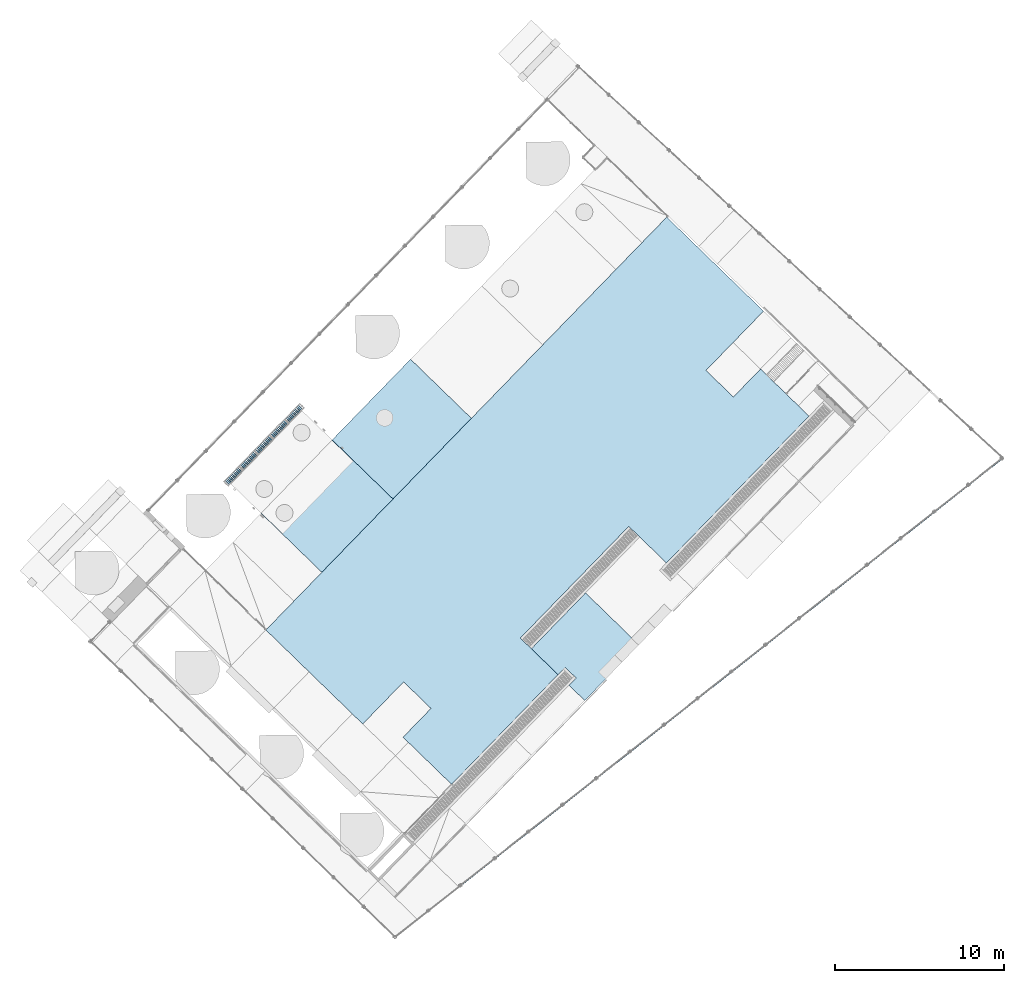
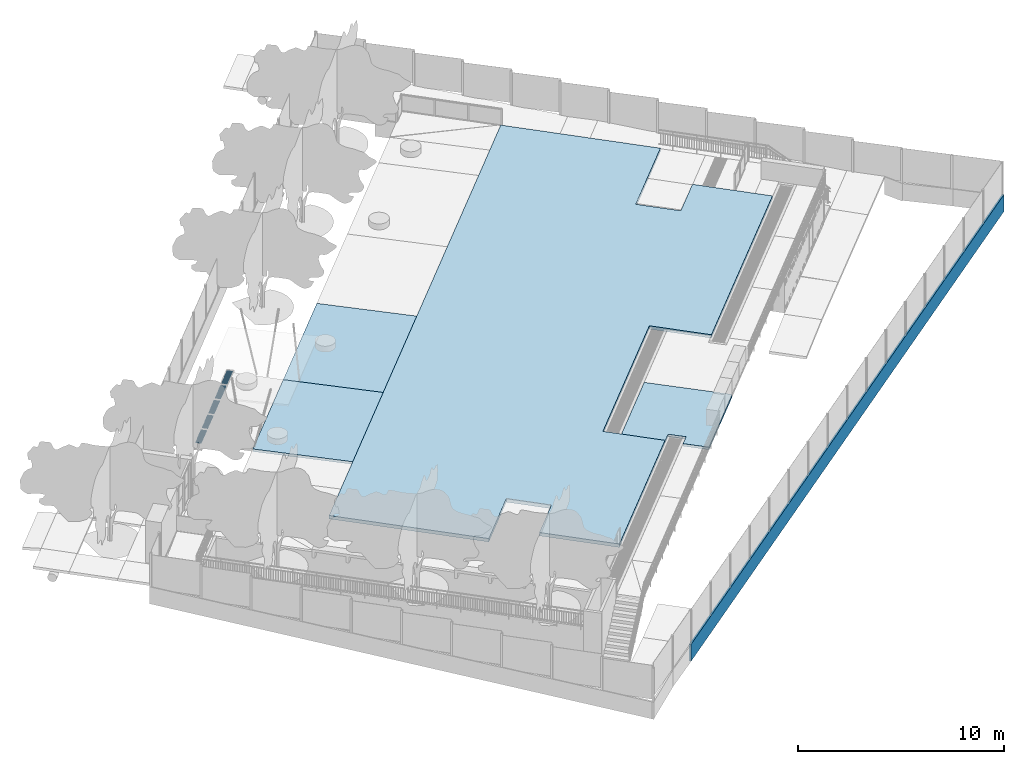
# One storey, part 14 of 37: 6 slabs.
"""IFC2X3 building model written with IfcOpenShell, lengths in centimetres."""

from ifc_helpers import new_model, entity, si_unit, converted_unit, derived_unit, direction, frame, frame_2d, origin, place, context, subcontext, project, spatial, polyline, rectangle, outline, extrude, material, layer, layer_set, layer_usage, element, save


model = new_model("IFC2X3")

# Units and contexts
model_context = context("Model", 3, precision=0.001, world=origin(), true_north=direction((0.717475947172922, 0.696583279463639)))
body_context = subcontext(model_context, "Body", "Model", "MODEL_VIEW")
ifc_project = project(units=[si_unit("LENGTHUNIT", "METRE", prefix="CENTI"), si_unit("AREAUNIT", "SQUARE_METRE"), si_unit("VOLUMEUNIT", "CUBIC_METRE"), converted_unit("PLANEANGLEUNIT", "DEGREE", entity("IfcRatioMeasure", 0.0174532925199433), si_unit("PLANEANGLEUNIT", "RADIAN"), dimensions=[0, 0, 0, 0, 0, 0, 0]), si_unit("MASSUNIT", "GRAM", prefix="KILO"), derived_unit("MASSDENSITYUNIT", [(si_unit("MASSUNIT", "GRAM", prefix="KILO"), 1), (si_unit("LENGTHUNIT", "METRE"), -3)]), si_unit("TIMEUNIT", "SECOND"), si_unit("FREQUENCYUNIT", "HERTZ"), si_unit("THERMODYNAMICTEMPERATUREUNIT", "DEGREE_CELSIUS"), derived_unit("THERMALTRANSMITTANCEUNIT", [(si_unit("MASSUNIT", "GRAM", prefix="KILO"), 1), (si_unit("THERMODYNAMICTEMPERATUREUNIT", "KELVIN"), -1), (si_unit("TIMEUNIT", "SECOND"), -3)]), derived_unit("VOLUMETRICFLOWRATEUNIT", [(si_unit("LENGTHUNIT", "METRE"), 3), (si_unit("TIMEUNIT", "SECOND"), -1)]), si_unit("ELECTRICCURRENTUNIT", "AMPERE"), si_unit("ELECTRICVOLTAGEUNIT", "VOLT"), si_unit("POWERUNIT", "WATT"), si_unit("FORCEUNIT", "NEWTON", prefix="KILO"), si_unit("ILLUMINANCEUNIT", "LUX"), si_unit("LUMINOUSFLUXUNIT", "LUMEN"), si_unit("LUMINOUSINTENSITYUNIT", "CANDELA"), derived_unit("USERDEFINED", [(si_unit("MASSUNIT", "GRAM", prefix="KILO"), -1), (si_unit("LENGTHUNIT", "METRE"), -2), (si_unit("TIMEUNIT", "SECOND"), 3), (si_unit("LUMINOUSFLUXUNIT", "LUMEN"), 1)]), derived_unit("LINEARVELOCITYUNIT", [(si_unit("LENGTHUNIT", "METRE"), 1), (si_unit("TIMEUNIT", "SECOND"), -1)]), si_unit("PRESSUREUNIT", "PASCAL"), derived_unit("USERDEFINED", [(si_unit("LENGTHUNIT", "METRE"), -2), (si_unit("MASSUNIT", "GRAM", prefix="KILO"), 1), (si_unit("TIMEUNIT", "SECOND"), -2)])], contexts=[model_context])

# Site, building, storey
site_placement = place(None, frame((0.0, 0.0, 0.0), z_axis=(0.0, 0.0, 1.0), x_axis=(0.696583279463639, 0.717475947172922, 0.0)))
site = spatial("IfcSite", under=ifc_project, at=site_placement, Name="Surface", CompositionType="ELEMENT")
building_placement = place(site_placement, origin())
building = spatial("IfcBuilding", under=site, at=building_placement, CompositionType="ELEMENT")
storey_placement = place(building_placement, origin())
storey = spatial("IfcBuildingStorey", under=building, at=storey_placement, Name="Nivel 0.00", CompositionType="ELEMENT", Elevation=0.0)

# Slabs
ifc_material_1 = material(Name="<Unnamed>")
ifc_layer_1 = layer(ifc_material_1, 15.0)
ifc_layer_set_1 = layer_set([ifc_layer_1], Name="Pad:HORMIGON_EXTERIOR_150mm")
ifc_layer_usage_1 = layer_usage(ifc_layer_set_1, "AXIS3", "POSITIVE", 0.0)
slab_1_placement = place(storey_placement, frame((-596.972531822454, -1565.307950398, 132.999369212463)))
element("IfcSlab", 1, at=slab_1_placement, inside=storey, material=ifc_layer_usage_1, Name="Pad:HORMIGON_EXTERIOR_150mm", ObjectType="Pad:HORMIGON_EXTERIOR_150mm", PredefinedType="FLOOR", context=body_context, shape_type="SweptSolid", body=[
    extrude(outline(polyline([(-229.930055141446, -439.864616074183), (229.930055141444, -439.864616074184), (229.930055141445, 0.0), (-229.930055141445, 0.0), (-229.930055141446, -220.014068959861), (-169.93095274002, -220.014068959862), (-169.930952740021, -310.017491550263), (-229.930055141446, -310.017491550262), (-229.930055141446, -439.864616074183)])), frame((229.930055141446, 439.846428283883, 15.0006202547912), z_axis=(0.0, 0.00909370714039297, 0.999958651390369), x_axis=(1.0, 0.0, 0.0)), (0.0, 0.00909370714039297, -0.999958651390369), 15.0006202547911),
])
ifc_layer_usage_2 = layer_usage(ifc_layer_set_1, "AXIS3", "POSITIVE", 0.0)
slab_2_placement = place(storey_placement, frame((-531.523887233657, 77.5654875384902, 124.997002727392)))
element("IfcSlab", 2, at=slab_2_placement, inside=storey, material=ifc_layer_usage_2, Name="Pad:HORMIGON_EXTERIOR_150mm", ObjectType="Pad:HORMIGON_EXTERIOR_150mm", PredefinedType="FLOOR", context=body_context, shape_type="SweptSolid", body=[
    extrude(rectangle(XDim=501.183519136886, YDim=664.982435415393, at=frame_2d((0.0, -250.591759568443), x_axis=(0.0, -1.0))), frame((332.491217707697, 0.0, 25.0029867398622), z_axis=(0.0, -0.0199527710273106, -0.999800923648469), x_axis=(1.0, 0.0, 0.0)), (0.0, -0.0199527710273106, 0.999800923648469), 15.0029867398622),
])
ifc_layer_usage_3 = layer_usage(ifc_layer_set_1, "AXIS3", "POSITIVE", 0.0)
slab_3_placement = place(storey_placement, frame((-1135.51504225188, 77.6410189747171, 124.997001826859)))
element("IfcSlab", 3, at=slab_3_placement, inside=storey, material=ifc_layer_usage_3, Name="Pad:HORMIGON_EXTERIOR_150mm", ObjectType="Pad:HORMIGON_EXTERIOR_150mm", PredefinedType="FLOOR", context=body_context, shape_type="SweptSolid", body=[
    extrude(rectangle(XDim=501.108002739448, YDim=603.99115501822, at=frame_2d((0.0, -250.554001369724), x_axis=(0.0, 1.0))), frame((301.99557750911, 0.0, 25.0029876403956), z_axis=(0.0, -0.0199557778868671, -0.99980086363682), x_axis=(1.0, 0.0, 0.0)), (0.0, -0.0199557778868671, 0.99980086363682), 15.0029876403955),
])
ifc_layer_2 = layer(ifc_material_1, 20.0)
ifc_layer_set_2 = layer_set([ifc_layer_2], Name="Pad:HORMIGON_SOBRESUELO_200mm")
ifc_layer_usage_4 = layer_usage(ifc_layer_set_2, "AXIS3", "POSITIVE", 0.0)
slab_4_placement = place(storey_placement, origin())
element("IfcSlab", 4, at=slab_4_placement, inside=storey, material=ifc_layer_usage_4, Name="Pad:HORMIGON_SOBRESUELO_200mm", ObjectType="Pad:HORMIGON_SOBRESUELO_200mm", PredefinedType="FLOOR", context=body_context, shape_type="SweptSolid", body=[
    extrude(outline(polyline([(-950.102242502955, -1607.60503923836), (-152.070261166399, -1607.60503923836), (-152.070261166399, -1260.58187886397), (72.9297388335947, -1260.58187886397), (72.9297388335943, -1497.62811196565), (472.929738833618, -1497.62811196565), (472.92973883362, -594.030537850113), (162.520654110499, -594.030537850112), (162.520654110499, 325.689583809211), (472.929738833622, 325.689583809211), (472.929738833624, 1535.49215786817), (72.9329047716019, 1535.49215786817), (72.9329047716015, 1305.1692577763), (-152.070271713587, 1305.1692577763), (-152.070271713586, 1793.49456846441), (-950.102242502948, 1793.49456846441), (-950.102242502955, -1607.60503923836)])), frame((-2.94199397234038, -872.536754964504, 135.0), z_axis=(0.0, 0.0, 1.0), x_axis=(0.0, -1.0, 0.0)), (0.0, 0.0, 1.0), 20.0),
])
ifc_material_2 = material(Name="Default Roof")
slab_5_placement = place(storey_placement, origin())
element("IfcSlab", 5, at=slab_5_placement, inside=storey, material=ifc_material_2, Name="REGUERA_METÁLICA5:REGUERA_METÁLICA-03", ObjectType="REGUERA_METÁLICA5:REGUERA_METÁLICA-03", PredefinedType="FLOOR", context=body_context, shape_type="SweptSolid", body=[
    extrude(rectangle(XDim=30.0000000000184, YDim=4.7625, at=frame_2d((-5.41788836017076e-14, 0.0), x_axis=(1.0, 0.0))), frame((-1144.20815403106, 848.098169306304, 135.0), z_axis=(0.0, 0.0, 1.0), x_axis=(0.0, -1.0, 0.0)), (0.0, 0.0, 1.0), 5.0),
    extrude(rectangle(XDim=30.0000000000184, YDim=4.7625, at=frame_2d((5.41788836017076e-14, 0.0), x_axis=(1.0, 0.0))), frame((-1039.43315403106, 848.098169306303, 135.0), z_axis=(0.0, 0.0, 1.0), x_axis=(0.0, -1.0, 0.0)), (0.0, 0.0, 1.0), 5.0),
    extrude(rectangle(XDim=30.0000000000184, YDim=4.7625, at=frame_2d((5.41788836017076e-14, 0.0), x_axis=(1.0, 0.0))), frame((-1048.95815403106, 848.098169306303, 135.0), z_axis=(0.0, 0.0, 1.0), x_axis=(0.0, -1.0, 0.0)), (0.0, 0.0, 1.0), 5.0),
    extrude(rectangle(XDim=30.0000000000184, YDim=4.7625, at=frame_2d((5.41788836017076e-14, 0.0), x_axis=(1.0, 0.0))), frame((-1058.48315403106, 848.098169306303, 135.0), z_axis=(0.0, 0.0, 1.0), x_axis=(0.0, -1.0, 0.0)), (0.0, 0.0, 1.0), 5.0),
    extrude(rectangle(XDim=30.0000000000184, YDim=4.7625, at=frame_2d((5.41788836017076e-14, 0.0), x_axis=(1.0, 0.0))), frame((-1068.00815403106, 848.098169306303, 135.0), z_axis=(0.0, 0.0, 1.0), x_axis=(0.0, -1.0, 0.0)), (0.0, 0.0, 1.0), 5.0),
    extrude(rectangle(XDim=30.0000000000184, YDim=4.7625, at=frame_2d((5.41788836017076e-14, 0.0), x_axis=(1.0, 0.0))), frame((-1077.53315403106, 848.098169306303, 135.0), z_axis=(0.0, 0.0, 1.0), x_axis=(0.0, -1.0, 0.0)), (0.0, 0.0, 1.0), 5.0),
    extrude(rectangle(XDim=30.0000000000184, YDim=4.7625, at=frame_2d((5.41788836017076e-14, 0.0), x_axis=(1.0, 0.0))), frame((-1087.05815403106, 848.098169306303, 135.0), z_axis=(0.0, 0.0, 1.0), x_axis=(0.0, -1.0, 0.0)), (0.0, 0.0, 1.0), 5.0),
    extrude(rectangle(XDim=30.0000000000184, YDim=4.7625, at=frame_2d((-5.41788836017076e-14, 0.0), x_axis=(1.0, 0.0))), frame((-1096.58315403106, 848.098169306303, 135.0), z_axis=(0.0, 0.0, 1.0), x_axis=(0.0, -1.0, 0.0)), (0.0, 0.0, 1.0), 5.0),
    extrude(rectangle(XDim=30.0000000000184, YDim=4.7625, at=frame_2d((-5.41788836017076e-14, 0.0), x_axis=(1.0, 0.0))), frame((-1106.10815403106, 848.098169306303, 135.0), z_axis=(0.0, 0.0, 1.0), x_axis=(0.0, -1.0, 0.0)), (0.0, 0.0, 1.0), 5.0),
    extrude(rectangle(XDim=30.0000000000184, YDim=4.7625, at=frame_2d((5.41788836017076e-14, 0.0), x_axis=(1.0, 0.0))), frame((-1115.63315403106, 848.098169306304, 135.0), z_axis=(0.0, 0.0, 1.0), x_axis=(0.0, -1.0, 0.0)), (0.0, 0.0, 1.0), 5.0),
    extrude(rectangle(XDim=30.0000000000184, YDim=4.7625, at=frame_2d((5.41788836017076e-14, 0.0), x_axis=(1.0, 0.0))), frame((-1125.15815403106, 848.098169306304, 135.0), z_axis=(0.0, 0.0, 1.0), x_axis=(0.0, -1.0, 0.0)), (0.0, 0.0, 1.0), 5.0),
    extrude(rectangle(XDim=30.0000000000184, YDim=4.7625, at=frame_2d((-5.41788836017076e-14, 0.0), x_axis=(1.0, 0.0))), frame((-1134.68315403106, 848.098169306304, 135.0), z_axis=(0.0, 0.0, 1.0), x_axis=(0.0, -1.0, 0.0)), (0.0, 0.0, 1.0), 5.0),
    extrude(rectangle(XDim=4.7625, YDim=30.0000000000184, at=frame_2d((0.0, 5.41788836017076e-14), x_axis=(1.0, 0.0))), frame((-1014.60577481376, 848.098169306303, 135.0), z_axis=(0.0, 0.0, 1.0), x_axis=(-1.0, 0.0, 0.0)), (0.0, 0.0, 1.0), 5.0),
    extrude(rectangle(XDim=4.7625, YDim=30.0000000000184, at=frame_2d((0.0, 5.41788836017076e-14), x_axis=(1.0, 0.0))), frame((-1005.08077481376, 848.098169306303, 135.0), z_axis=(0.0, 0.0, 1.0), x_axis=(-1.0, 0.0, 0.0)), (0.0, 0.0, 1.0), 5.0),
    extrude(rectangle(XDim=4.7625, YDim=30.0000000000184, at=frame_2d((0.0, 5.41788836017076e-14), x_axis=(1.0, 0.0))), frame((-995.555774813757, 848.098169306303, 135.0), z_axis=(0.0, 0.0, 1.0), x_axis=(-1.0, 0.0, 0.0)), (0.0, 0.0, 1.0), 5.0),
    extrude(rectangle(XDim=4.7625, YDim=30.0000000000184, at=frame_2d((0.0, 5.41788836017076e-14), x_axis=(1.0, 0.0))), frame((-986.030774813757, 848.098169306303, 135.0), z_axis=(0.0, 0.0, 1.0), x_axis=(-1.0, 0.0, 0.0)), (0.0, 0.0, 1.0), 5.0),
    extrude(rectangle(XDim=4.7625, YDim=30.0000000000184, at=frame_2d((0.0, 5.41788836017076e-14), x_axis=(1.0, 0.0))), frame((-976.505774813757, 848.098169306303, 135.0), z_axis=(0.0, 0.0, 1.0), x_axis=(-1.0, 0.0, 0.0)), (0.0, 0.0, 1.0), 5.0),
    extrude(rectangle(XDim=4.7625, YDim=30.0000000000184, at=frame_2d((0.0, 5.41788836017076e-14), x_axis=(1.0, 0.0))), frame((-966.980774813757, 848.098169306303, 135.0), z_axis=(0.0, 0.0, 1.0), x_axis=(-1.0, 0.0, 0.0)), (0.0, 0.0, 1.0), 5.0),
    extrude(rectangle(XDim=4.7625, YDim=30.0000000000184, at=frame_2d((0.0, 5.41788836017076e-14), x_axis=(1.0, 0.0))), frame((-957.455774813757, 848.098169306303, 135.0), z_axis=(0.0, 0.0, 1.0), x_axis=(-1.0, 0.0, 0.0)), (0.0, 0.0, 1.0), 5.0),
    extrude(rectangle(XDim=4.7625, YDim=30.0000000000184, at=frame_2d((0.0, 5.41788836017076e-14), x_axis=(1.0, 0.0))), frame((-947.930774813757, 848.098169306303, 135.0), z_axis=(0.0, 0.0, 1.0), x_axis=(-1.0, 0.0, 0.0)), (0.0, 0.0, 1.0), 5.0),
    extrude(rectangle(XDim=4.7625, YDim=30.0000000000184, at=frame_2d((0.0, -5.41788836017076e-14), x_axis=(1.0, 0.0))), frame((-938.405774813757, 848.098169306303, 135.0), z_axis=(0.0, 0.0, 1.0), x_axis=(-1.0, 0.0, 0.0)), (0.0, 0.0, 1.0), 5.0),
    extrude(rectangle(XDim=4.7625, YDim=30.0000000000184, at=frame_2d((0.0, -5.41788836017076e-14), x_axis=(1.0, 0.0))), frame((-928.880774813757, 848.098169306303, 135.0), z_axis=(0.0, 0.0, 1.0), x_axis=(-1.0, 0.0, 0.0)), (0.0, 0.0, 1.0), 5.0),
    extrude(rectangle(XDim=4.7625, YDim=30.0000000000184, at=frame_2d((0.0, -5.41788836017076e-14), x_axis=(1.0, 0.0))), frame((-919.355774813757, 848.098169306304, 135.0), z_axis=(0.0, 0.0, 1.0), x_axis=(-1.0, 0.0, 0.0)), (0.0, 0.0, 1.0), 5.0),
    extrude(rectangle(XDim=4.7625, YDim=30.0000000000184, at=frame_2d((0.0, -5.41788836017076e-14), x_axis=(1.0, 0.0))), frame((-909.830774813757, 848.098169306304, 135.0), z_axis=(0.0, 0.0, 1.0), x_axis=(-1.0, 0.0, 0.0)), (0.0, 0.0, 1.0), 5.0),
    extrude(rectangle(XDim=30.0000000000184, YDim=4.7625, at=frame_2d((5.41788836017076e-14, 0.0), x_axis=(1.0, 0.0))), frame((-781.433154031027, 848.098169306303, 135.0), z_axis=(0.0, 0.0, 1.0), x_axis=(0.0, -1.0, 0.0)), (0.0, 0.0, 1.0), 5.0),
    extrude(rectangle(XDim=30.0000000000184, YDim=4.7625, at=frame_2d((5.41788836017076e-14, 0.0), x_axis=(1.0, 0.0))), frame((-790.958154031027, 848.098169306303, 135.0), z_axis=(0.0, 0.0, 1.0), x_axis=(0.0, -1.0, 0.0)), (0.0, 0.0, 1.0), 5.0),
    extrude(rectangle(XDim=30.0000000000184, YDim=4.7625, at=frame_2d((5.41788836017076e-14, 0.0), x_axis=(1.0, 0.0))), frame((-800.483154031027, 848.098169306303, 135.0), z_axis=(0.0, 0.0, 1.0), x_axis=(0.0, -1.0, 0.0)), (0.0, 0.0, 1.0), 5.0),
    extrude(rectangle(XDim=30.0000000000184, YDim=4.7625, at=frame_2d((5.41788836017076e-14, 0.0), x_axis=(1.0, 0.0))), frame((-810.008154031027, 848.098169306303, 135.0), z_axis=(0.0, 0.0, 1.0), x_axis=(0.0, -1.0, 0.0)), (0.0, 0.0, 1.0), 5.0),
    extrude(rectangle(XDim=30.0000000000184, YDim=4.7625, at=frame_2d((5.41788836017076e-14, 0.0), x_axis=(1.0, 0.0))), frame((-819.533154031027, 848.098169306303, 135.0), z_axis=(0.0, 0.0, 1.0), x_axis=(0.0, -1.0, 0.0)), (0.0, 0.0, 1.0), 5.0),
    extrude(rectangle(XDim=30.0000000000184, YDim=4.7625, at=frame_2d((5.41788836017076e-14, 0.0), x_axis=(1.0, 0.0))), frame((-829.058154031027, 848.098169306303, 135.0), z_axis=(0.0, 0.0, 1.0), x_axis=(0.0, -1.0, 0.0)), (0.0, 0.0, 1.0), 5.0),
    extrude(rectangle(XDim=30.0000000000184, YDim=4.7625, at=frame_2d((-5.41788836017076e-14, 0.0), x_axis=(1.0, 0.0))), frame((-838.583154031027, 848.098169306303, 135.0), z_axis=(0.0, 0.0, 1.0), x_axis=(0.0, -1.0, 0.0)), (0.0, 0.0, 1.0), 5.0),
    extrude(rectangle(XDim=30.0000000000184, YDim=4.7625, at=frame_2d((-5.41788836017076e-14, 0.0), x_axis=(1.0, 0.0))), frame((-848.108154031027, 848.098169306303, 135.0), z_axis=(0.0, 0.0, 1.0), x_axis=(0.0, -1.0, 0.0)), (0.0, 0.0, 1.0), 5.0),
    extrude(rectangle(XDim=30.0000000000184, YDim=4.7625, at=frame_2d((5.41788836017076e-14, 0.0), x_axis=(1.0, 0.0))), frame((-857.633154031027, 848.098169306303, 135.0), z_axis=(0.0, 0.0, 1.0), x_axis=(0.0, -1.0, 0.0)), (0.0, 0.0, 1.0), 5.0),
    extrude(rectangle(XDim=30.0000000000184, YDim=4.7625, at=frame_2d((5.41788836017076e-14, 0.0), x_axis=(1.0, 0.0))), frame((-867.158154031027, 848.098169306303, 135.0), z_axis=(0.0, 0.0, 1.0), x_axis=(0.0, -1.0, 0.0)), (0.0, 0.0, 1.0), 5.0),
    extrude(rectangle(XDim=30.0000000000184, YDim=4.7625, at=frame_2d((-5.41788836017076e-14, 0.0), x_axis=(1.0, 0.0))), frame((-876.683154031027, 848.098169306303, 135.0), z_axis=(0.0, 0.0, 1.0), x_axis=(0.0, -1.0, 0.0)), (0.0, 0.0, 1.0), 5.0),
    extrude(rectangle(XDim=30.0000000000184, YDim=4.7625, at=frame_2d((-5.41788836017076e-14, 0.0), x_axis=(1.0, 0.0))), frame((-886.208154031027, 848.098169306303, 135.0), z_axis=(0.0, 0.0, 1.0), x_axis=(0.0, -1.0, 0.0)), (0.0, 0.0, 1.0), 5.0),
    extrude(rectangle(XDim=4.7625, YDim=30.0000000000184, at=frame_2d((0.0, 5.41788836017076e-14), x_axis=(1.0, 0.0))), frame((-756.605774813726, 848.098169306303, 135.0), z_axis=(0.0, 0.0, 1.0), x_axis=(-1.0, 0.0, 0.0)), (0.0, 0.0, 1.0), 5.0),
    extrude(rectangle(XDim=4.7625, YDim=30.0000000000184, at=frame_2d((0.0, 5.41788836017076e-14), x_axis=(1.0, 0.0))), frame((-747.080774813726, 848.098169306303, 135.0), z_axis=(0.0, 0.0, 1.0), x_axis=(-1.0, 0.0, 0.0)), (0.0, 0.0, 1.0), 5.0),
    extrude(rectangle(XDim=4.7625, YDim=30.0000000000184, at=frame_2d((0.0, 5.41788836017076e-14), x_axis=(1.0, 0.0))), frame((-737.555774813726, 848.098169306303, 135.0), z_axis=(0.0, 0.0, 1.0), x_axis=(-1.0, 0.0, 0.0)), (0.0, 0.0, 1.0), 5.0),
    extrude(rectangle(XDim=4.7625, YDim=30.0000000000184, at=frame_2d((0.0, 5.41788836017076e-14), x_axis=(1.0, 0.0))), frame((-728.030774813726, 848.098169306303, 135.0), z_axis=(0.0, 0.0, 1.0), x_axis=(-1.0, 0.0, 0.0)), (0.0, 0.0, 1.0), 5.0),
    extrude(rectangle(XDim=4.7625, YDim=30.0000000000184, at=frame_2d((0.0, 5.41788836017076e-14), x_axis=(1.0, 0.0))), frame((-718.505774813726, 848.098169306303, 135.0), z_axis=(0.0, 0.0, 1.0), x_axis=(-1.0, 0.0, 0.0)), (0.0, 0.0, 1.0), 5.0),
    extrude(rectangle(XDim=4.7625, YDim=30.0000000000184, at=frame_2d((0.0, 5.41788836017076e-14), x_axis=(1.0, 0.0))), frame((-708.980774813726, 848.098169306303, 135.0), z_axis=(0.0, 0.0, 1.0), x_axis=(-1.0, 0.0, 0.0)), (0.0, 0.0, 1.0), 5.0),
    extrude(rectangle(XDim=4.7625, YDim=30.0000000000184, at=frame_2d((0.0, 5.41788836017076e-14), x_axis=(1.0, 0.0))), frame((-699.455774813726, 848.098169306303, 135.0), z_axis=(0.0, 0.0, 1.0), x_axis=(-1.0, 0.0, 0.0)), (0.0, 0.0, 1.0), 5.0),
    extrude(rectangle(XDim=4.7625, YDim=30.0000000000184, at=frame_2d((0.0, 5.41788836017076e-14), x_axis=(1.0, 0.0))), frame((-689.930774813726, 848.098169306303, 135.0), z_axis=(0.0, 0.0, 1.0), x_axis=(-1.0, 0.0, 0.0)), (0.0, 0.0, 1.0), 5.0),
    extrude(rectangle(XDim=4.7625, YDim=30.0000000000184, at=frame_2d((0.0, -5.41788836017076e-14), x_axis=(1.0, 0.0))), frame((-680.405774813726, 848.098169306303, 135.0), z_axis=(0.0, 0.0, 1.0), x_axis=(-1.0, 0.0, 0.0)), (0.0, 0.0, 1.0), 5.0),
    extrude(rectangle(XDim=4.7625, YDim=30.0000000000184, at=frame_2d((0.0, -5.41788836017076e-14), x_axis=(1.0, 0.0))), frame((-670.880774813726, 848.098169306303, 135.0), z_axis=(0.0, 0.0, 1.0), x_axis=(-1.0, 0.0, 0.0)), (0.0, 0.0, 1.0), 5.0),
    extrude(rectangle(XDim=4.7625, YDim=30.0000000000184, at=frame_2d((0.0, -5.41788836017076e-14), x_axis=(1.0, 0.0))), frame((-661.355774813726, 848.098169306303, 135.0), z_axis=(0.0, 0.0, 1.0), x_axis=(-1.0, 0.0, 0.0)), (0.0, 0.0, 1.0), 5.0),
    extrude(rectangle(XDim=4.7625, YDim=30.0000000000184, at=frame_2d((0.0, -5.41788836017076e-14), x_axis=(1.0, 0.0))), frame((-651.830774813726, 848.098169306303, 135.0), z_axis=(0.0, 0.0, 1.0), x_axis=(-1.0, 0.0, 0.0)), (0.0, 0.0, 1.0), 5.0),
    extrude(rectangle(XDim=30.0000000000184, YDim=4.7625, at=frame_2d((5.41788836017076e-14, 0.0), x_axis=(1.0, 0.0))), frame((-523.433154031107, 848.098169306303, 135.0), z_axis=(0.0, 0.0, 1.0), x_axis=(0.0, -1.0, 0.0)), (0.0, 0.0, 1.0), 5.0),
    extrude(rectangle(XDim=30.0000000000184, YDim=4.7625, at=frame_2d((5.41788836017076e-14, 0.0), x_axis=(1.0, 0.0))), frame((-532.958154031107, 848.098169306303, 135.0), z_axis=(0.0, 0.0, 1.0), x_axis=(0.0, -1.0, 0.0)), (0.0, 0.0, 1.0), 5.0),
    extrude(rectangle(XDim=30.0000000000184, YDim=4.7625, at=frame_2d((5.41788836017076e-14, 0.0), x_axis=(1.0, 0.0))), frame((-542.483154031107, 848.098169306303, 135.0), z_axis=(0.0, 0.0, 1.0), x_axis=(0.0, -1.0, 0.0)), (0.0, 0.0, 1.0), 5.0),
    extrude(rectangle(XDim=30.0000000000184, YDim=4.7625, at=frame_2d((5.41788836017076e-14, 0.0), x_axis=(1.0, 0.0))), frame((-552.008154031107, 848.098169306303, 135.0), z_axis=(0.0, 0.0, 1.0), x_axis=(0.0, -1.0, 0.0)), (0.0, 0.0, 1.0), 5.0),
    extrude(rectangle(XDim=30.0000000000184, YDim=4.7625, at=frame_2d((5.41788836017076e-14, 0.0), x_axis=(1.0, 0.0))), frame((-561.533154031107, 848.098169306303, 135.0), z_axis=(0.0, 0.0, 1.0), x_axis=(0.0, -1.0, 0.0)), (0.0, 0.0, 1.0), 5.0),
    extrude(rectangle(XDim=30.0000000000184, YDim=4.7625, at=frame_2d((5.41788836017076e-14, 0.0), x_axis=(1.0, 0.0))), frame((-571.058154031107, 848.098169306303, 135.0), z_axis=(0.0, 0.0, 1.0), x_axis=(0.0, -1.0, 0.0)), (0.0, 0.0, 1.0), 5.0),
    extrude(rectangle(XDim=30.0000000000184, YDim=4.7625, at=frame_2d((-5.41788836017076e-14, 0.0), x_axis=(1.0, 0.0))), frame((-580.583154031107, 848.098169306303, 135.0), z_axis=(0.0, 0.0, 1.0), x_axis=(0.0, -1.0, 0.0)), (0.0, 0.0, 1.0), 5.0),
    extrude(rectangle(XDim=30.0000000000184, YDim=4.7625, at=frame_2d((-5.41788836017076e-14, 0.0), x_axis=(1.0, 0.0))), frame((-590.108154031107, 848.098169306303, 135.0), z_axis=(0.0, 0.0, 1.0), x_axis=(0.0, -1.0, 0.0)), (0.0, 0.0, 1.0), 5.0),
    extrude(rectangle(XDim=30.0000000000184, YDim=4.7625, at=frame_2d((5.41788836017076e-14, 0.0), x_axis=(1.0, 0.0))), frame((-599.633154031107, 848.098169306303, 135.0), z_axis=(0.0, 0.0, 1.0), x_axis=(0.0, -1.0, 0.0)), (0.0, 0.0, 1.0), 5.0),
    extrude(rectangle(XDim=30.0000000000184, YDim=4.7625, at=frame_2d((5.41788836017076e-14, 0.0), x_axis=(1.0, 0.0))), frame((-609.158154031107, 848.098169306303, 135.0), z_axis=(0.0, 0.0, 1.0), x_axis=(0.0, -1.0, 0.0)), (0.0, 0.0, 1.0), 5.0),
    extrude(rectangle(XDim=30.0000000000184, YDim=4.7625, at=frame_2d((-5.41788836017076e-14, 0.0), x_axis=(1.0, 0.0))), frame((-618.683154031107, 848.098169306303, 135.0), z_axis=(0.0, 0.0, 1.0), x_axis=(0.0, -1.0, 0.0)), (0.0, 0.0, 1.0), 5.0),
    extrude(rectangle(XDim=30.0000000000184, YDim=4.7625, at=frame_2d((-5.41788836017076e-14, 0.0), x_axis=(1.0, 0.0))), frame((-628.208154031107, 848.098169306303, 135.0), z_axis=(0.0, 0.0, 1.0), x_axis=(0.0, -1.0, 0.0)), (0.0, 0.0, 1.0), 5.0),
])
ifc_material_3 = material(Name="Concrete, Cast-in-Place gray")
ifc_layer_3 = layer(ifc_material_3, 100.0)
ifc_layer_set_3 = layer_set([ifc_layer_3], Name="Pad:HORMIGON_M.CONTEN_1000mm")
ifc_layer_usage_5 = layer_usage(ifc_layer_set_3, "AXIS3", "POSITIVE", 0.0)
slab_6_placement = place(storey_placement, origin())
element("IfcSlab", 6, at=slab_6_placement, inside=storey, material=ifc_layer_usage_5, Name="Pad:HORMIGON_M.CONTEN_1000mm", ObjectType="Pad:HORMIGON_M.CONTEN_1000mm", PredefinedType="FLOOR", context=body_context, shape_type="SweptSolid", body=[
    extrude(rectangle(XDim=4092.15843563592, YDim=10.0000000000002, at=frame_2d((-407.214089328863, 0.999999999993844), x_axis=(1.0, 0.0))), frame((533.26696495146, -2124.04820988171, -190.0), z_axis=(0.0, 0.0, 1.0), x_axis=(0.991222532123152, -0.132203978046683, 0.0)), (0.0, 0.0, 1.0), 100.0),
])

save(model, "model.ifc")
